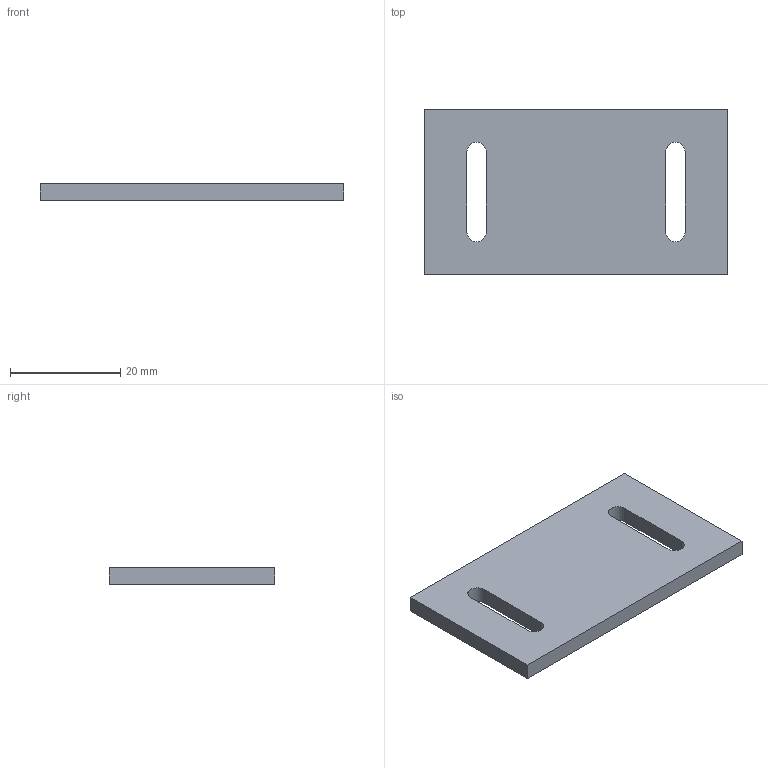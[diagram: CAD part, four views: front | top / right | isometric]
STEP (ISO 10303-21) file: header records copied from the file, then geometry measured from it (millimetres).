
FILE_DESCRIPTION(('Open CASCADE Model'),'2;1');
FILE_NAME('Open CASCADE Shape Model','2026-10-21T17:23:53',('Author'),( 'Open CASCADE'),'Open CASCADE STEP processor 7.9','Open CASCADE 7.9' ,'Unknown');
FILE_SCHEMA(('AUTOMOTIVE_DESIGN { 1 0 10303 214 1 1 1 1 }'));
Length unit declared in the file: millimetre
Products named in the file (1): Open CASCADE STEP translator 7.9 60
Bounding box: 55 x 30 x 3 mm (x, y, z)
Volume: 4587.8 mm3; surface area: 3808.5 mm2
Topology: 1 solids, 1 shells, 14 faces, 36 edges, 24 vertices
Faces by surface type: plane 10, cylinder 4
Entity records: 938 total; most frequent: CARTESIAN_POINT 195, DIRECTION 138, LINE 92, VECTOR 92, ORIENTED_EDGE 72, PCURVE 72, DEFINITIONAL_REPRESENTATION 72, EDGE_CURVE 36
